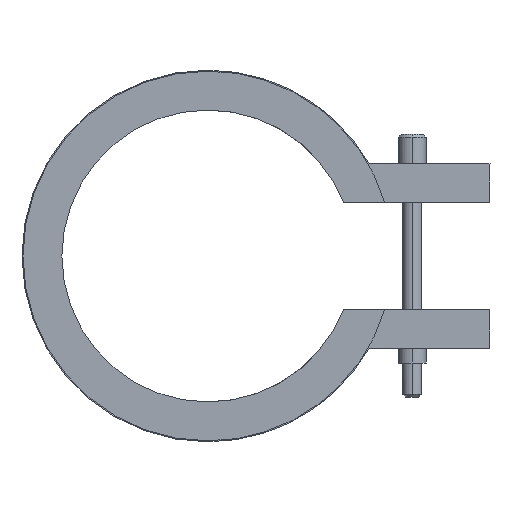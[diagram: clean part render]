
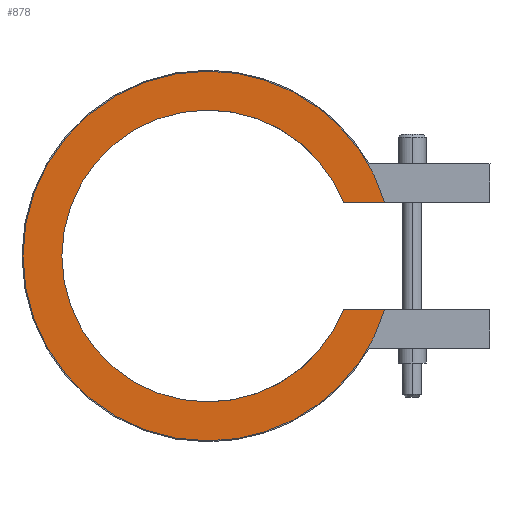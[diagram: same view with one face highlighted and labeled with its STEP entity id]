
A CAD part, left-side view. The second image highlights one B-rep face of the part: STEP entity #878.
In plain terms, the highlighted planar face has unit normal (-1, 0, 0).
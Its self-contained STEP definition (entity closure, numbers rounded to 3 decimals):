
#416=CARTESIAN_POINT('Vertex',(-15.,-13.955,-5.5)) ;
#419=CARTESIAN_POINT('Line Origine',(-15.,-16.071,-5.5)) ;
#423=CARTESIAN_POINT('Vertex',(-15.,-18.187,-5.5)) ;
#469=CARTESIAN_POINT('Vertex',(-15.,0.,-19.)) ;
#472=CARTESIAN_POINT('Axis2P3D Location',(-15.,0.,0.)) ;
#493=CARTESIAN_POINT('Vertex',(-15.,0.,19.)) ;
#496=CARTESIAN_POINT('Axis2P3D Location',(-15.,0.,0.)) ;
#508=CARTESIAN_POINT('Axis2P3D Location',(-15.,0.,0.)) ;
#512=CARTESIAN_POINT('Vertex',(-15.,-18.187,5.5)) ;
#532=CARTESIAN_POINT('Line Origine',(-15.,-16.071,5.5)) ;
#536=CARTESIAN_POINT('Vertex',(-15.,-13.955,5.5)) ;
#824=CARTESIAN_POINT('Axis2P3D Location',(-15.,0.,0.)) ;
#828=CARTESIAN_POINT('Vertex',(-15.,0.,-15.)) ;
#851=CARTESIAN_POINT('Axis2P3D Location',(-15.,0.,0.)) ;
#856=CARTESIAN_POINT('Axis2P3D Location',(-15.,0.,0.)) ;
#860=CARTESIAN_POINT('Vertex',(-15.,0.,15.)) ;
#863=CARTESIAN_POINT('Axis2P3D Location',(-15.,0.,0.)) ;
#420=DIRECTION('Vector Direction',(0.,1.,0.)) ;
#473=DIRECTION('Axis2P3D Direction',(1.,0.,-0.)) ;
#497=DIRECTION('Axis2P3D Direction',(1.,0.,-0.)) ;
#509=DIRECTION('Axis2P3D Direction',(1.,0.,-0.)) ;
#533=DIRECTION('Vector Direction',(0.,-1.,0.)) ;
#825=DIRECTION('Axis2P3D Direction',(1.,0.,-0.)) ;
#852=DIRECTION('Axis2P3D Direction',(1.,0.,0.)) ;
#853=DIRECTION('Axis2P3D XDirection',(0.,0.,-1.)) ;
#857=DIRECTION('Axis2P3D Direction',(1.,0.,0.)) ;
#864=DIRECTION('Axis2P3D Direction',(1.,0.,0.)) ;
#474=AXIS2_PLACEMENT_3D('Circle Axis2P3D',#472,#473,$) ;
#498=AXIS2_PLACEMENT_3D('Circle Axis2P3D',#496,#497,$) ;
#510=AXIS2_PLACEMENT_3D('Circle Axis2P3D',#508,#509,$) ;
#826=AXIS2_PLACEMENT_3D('Circle Axis2P3D',#824,#825,$) ;
#854=AXIS2_PLACEMENT_3D('Plane Axis2P3D',#851,#852,#853) ;
#858=AXIS2_PLACEMENT_3D('Circle Axis2P3D',#856,#857,$) ;
#865=AXIS2_PLACEMENT_3D('Circle Axis2P3D',#863,#864,$) ;
#869=ORIENTED_EDGE('',*,*,#425,.T.) ;
#870=ORIENTED_EDGE('',*,*,#830,.T.) ;
#871=ORIENTED_EDGE('',*,*,#862,.T.) ;
#872=ORIENTED_EDGE('',*,*,#867,.T.) ;
#873=ORIENTED_EDGE('',*,*,#538,.T.) ;
#874=ORIENTED_EDGE('',*,*,#514,.F.) ;
#875=ORIENTED_EDGE('',*,*,#500,.F.) ;
#876=ORIENTED_EDGE('',*,*,#476,.F.) ;
#421=VECTOR('Line Direction',#420,1.) ;
#534=VECTOR('Line Direction',#533,1.) ;
#878=ADVANCED_FACE('14030030',(#877),#855,.F.) ;
#475=CIRCLE('generated circle',#474,19.) ;
#499=CIRCLE('generated circle',#498,19.) ;
#511=CIRCLE('generated circle',#510,19.) ;
#827=CIRCLE('generated circle',#826,15.) ;
#859=CIRCLE('generated circle',#858,15.) ;
#866=CIRCLE('generated circle',#865,15.) ;
#425=EDGE_CURVE('',#424,#417,#422,.T.) ;
#476=EDGE_CURVE('',#424,#470,#475,.T.) ;
#500=EDGE_CURVE('',#470,#494,#499,.T.) ;
#514=EDGE_CURVE('',#494,#513,#511,.T.) ;
#538=EDGE_CURVE('',#537,#513,#535,.T.) ;
#830=EDGE_CURVE('',#417,#829,#827,.T.) ;
#862=EDGE_CURVE('',#829,#861,#859,.T.) ;
#867=EDGE_CURVE('',#861,#537,#866,.T.) ;
#868=EDGE_LOOP('',(#869,#870,#871,#872,#873,#874,#875,#876)) ;
#877=FACE_OUTER_BOUND('',#868,.T.) ;
#422=LINE('Line',#419,#421) ;
#535=LINE('Line',#532,#534) ;
#855=PLANE('Plane',#854) ;
#417=VERTEX_POINT('',#416) ;
#424=VERTEX_POINT('',#423) ;
#470=VERTEX_POINT('',#469) ;
#494=VERTEX_POINT('',#493) ;
#513=VERTEX_POINT('',#512) ;
#537=VERTEX_POINT('',#536) ;
#829=VERTEX_POINT('',#828) ;
#861=VERTEX_POINT('',#860) ;
